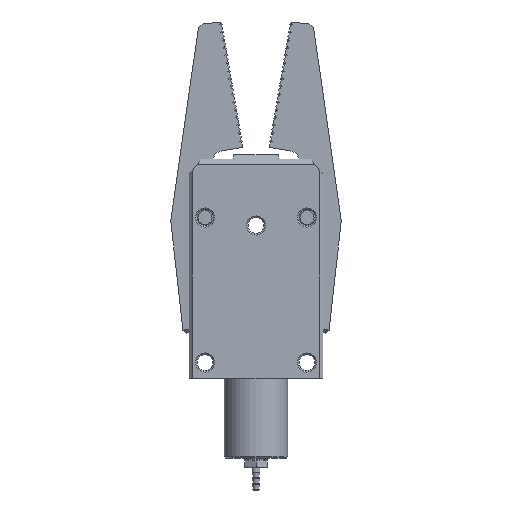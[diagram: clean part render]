
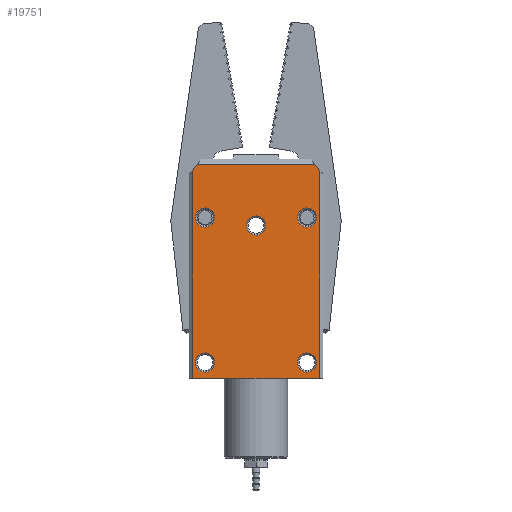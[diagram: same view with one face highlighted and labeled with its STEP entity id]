
A CAD part, front view. The second image highlights one B-rep face of the part: STEP entity #19751.
In plain terms, the highlighted planar face has unit normal (0, -1, 0).
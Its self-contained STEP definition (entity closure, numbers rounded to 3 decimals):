
#13087=LINE('',#45823,#16439);
#13101=LINE('',#45848,#16453);
#13102=LINE('',#45850,#16454);
#13103=LINE('',#45851,#16455);
#13104=LINE('',#45853,#16456);
#13105=LINE('',#45855,#16457);
#13106=LINE('',#45857,#16458);
#16439=VECTOR('',#39024,1.);
#16453=VECTOR('',#39042,1.);
#16454=VECTOR('',#39045,1.);
#16455=VECTOR('',#39046,1.);
#16456=VECTOR('',#39047,1.);
#16457=VECTOR('',#39048,1.);
#16458=VECTOR('',#39049,1.);
#19751=ADVANCED_FACE('',(#22927,#22928,#22929,#22930,#22931,#22932),#21347,
 .F.);
#21347=PLANE('',#37142);
#22927=FACE_BOUND('',#23061,.T.);
#22928=FACE_BOUND('',#23062,.T.);
#22929=FACE_BOUND('',#23063,.T.);
#22930=FACE_BOUND('',#23064,.T.);
#22931=FACE_BOUND('',#23065,.T.);
#22932=FACE_BOUND('',#23066,.T.);
#23061=EDGE_LOOP('',(#24870));
#23062=EDGE_LOOP('',(#24871));
#23063=EDGE_LOOP('',(#24872));
#23064=EDGE_LOOP('',(#24873));
#23065=EDGE_LOOP('',(#24874));
#23066=EDGE_LOOP('',(#24875,#24876,#24877,#24878,#24879,#24880,#24881));
#24870=ORIENTED_EDGE('',*,*,#33548,.T.);
#24871=ORIENTED_EDGE('',*,*,#33546,.T.);
#24872=ORIENTED_EDGE('',*,*,#33544,.T.);
#24873=ORIENTED_EDGE('',*,*,#33542,.T.);
#24874=ORIENTED_EDGE('',*,*,#33540,.T.);
#24875=ORIENTED_EDGE('',*,*,#33643,.F.);
#24876=ORIENTED_EDGE('',*,*,#33644,.T.);
#24877=ORIENTED_EDGE('',*,*,#33629,.T.);
#24878=ORIENTED_EDGE('',*,*,#33645,.T.);
#24879=ORIENTED_EDGE('',*,*,#33646,.T.);
#24880=ORIENTED_EDGE('',*,*,#33647,.T.);
#24881=ORIENTED_EDGE('',*,*,#33648,.F.);
#31645=VERTEX_POINT('',#45632);
#31647=VERTEX_POINT('',#45637);
#31649=VERTEX_POINT('',#45642);
#31651=VERTEX_POINT('',#45647);
#31653=VERTEX_POINT('',#45652);
#31669=VERTEX_POINT('',#45692);
#31720=VERTEX_POINT('',#45824);
#31721=VERTEX_POINT('',#45825);
#31728=VERTEX_POINT('',#45847);
#31729=VERTEX_POINT('',#45852);
#31730=VERTEX_POINT('',#45854);
#31731=VERTEX_POINT('',#45856);
#33540=EDGE_CURVE('',#31645,#31645,#36970,.T.);
#33542=EDGE_CURVE('',#31647,#31647,#36972,.T.);
#33544=EDGE_CURVE('',#31649,#31649,#36974,.T.);
#33546=EDGE_CURVE('',#31651,#31651,#36976,.T.);
#33548=EDGE_CURVE('',#31653,#31653,#36978,.T.);
#33629=EDGE_CURVE('',#31720,#31721,#13087,.T.);
#33643=EDGE_CURVE('',#31728,#31669,#13101,.T.);
#33644=EDGE_CURVE('',#31728,#31720,#13102,.T.);
#33645=EDGE_CURVE('',#31721,#31729,#13103,.T.);
#33646=EDGE_CURVE('',#31729,#31730,#13104,.T.);
#33647=EDGE_CURVE('',#31730,#31731,#13105,.T.);
#33648=EDGE_CURVE('',#31669,#31731,#13106,.T.);
#36970=CIRCLE('',#37072,3.);
#36972=CIRCLE('',#37075,3.);
#36974=CIRCLE('',#37078,3.);
#36976=CIRCLE('',#37081,3.);
#36978=CIRCLE('',#37084,3.);
#37072=AXIS2_PLACEMENT_3D('',#45631,#38840,#38841);
#37075=AXIS2_PLACEMENT_3D('',#45636,#38846,#38847);
#37078=AXIS2_PLACEMENT_3D('',#45641,#38852,#38853);
#37081=AXIS2_PLACEMENT_3D('',#45646,#38858,#38859);
#37084=AXIS2_PLACEMENT_3D('',#45651,#38864,#38865);
#37142=AXIS2_PLACEMENT_3D('',#45858,#39050,#39051);
#38840=DIRECTION('',(0.,1.,0.));
#38841=DIRECTION('',(-1.,0.,0.));
#38846=DIRECTION('',(0.,1.,0.));
#38847=DIRECTION('',(-1.,0.,0.));
#38852=DIRECTION('',(0.,1.,0.));
#38853=DIRECTION('',(-1.,0.,0.));
#38858=DIRECTION('',(0.,1.,0.));
#38859=DIRECTION('',(-1.,0.,0.));
#38864=DIRECTION('',(0.,1.,0.));
#38865=DIRECTION('',(-1.,0.,0.));
#39024=DIRECTION('',(-0.628,0.,0.778));
#39042=DIRECTION('',(-1.,0.,0.));
#39045=DIRECTION('',(0.,0.,1.));
#39046=DIRECTION('',(-1.,0.,0.));
#39047=DIRECTION('',(-0.628,0.,-0.778));
#39048=DIRECTION('',(0.,0.,-1.));
#39049=DIRECTION('',(-1.,0.,0.));
#39050=DIRECTION('',(0.,1.,0.));
#39051=DIRECTION('',(1.,0.,0.));
#45631=CARTESIAN_POINT('',(407.585,-179.749,-18.11));
#45632=CARTESIAN_POINT('',(404.585,-179.749,-18.11));
#45636=CARTESIAN_POINT('',(407.585,-179.749,27.39));
#45637=CARTESIAN_POINT('',(404.585,-179.749,27.39));
#45641=CARTESIAN_POINT('',(423.585,-179.749,24.89));
#45642=CARTESIAN_POINT('',(420.585,-179.749,24.89));
#45646=CARTESIAN_POINT('',(439.585,-179.749,27.39));
#45647=CARTESIAN_POINT('',(436.585,-179.749,27.39));
#45651=CARTESIAN_POINT('',(439.585,-179.749,-18.11));
#45652=CARTESIAN_POINT('',(436.585,-179.749,-18.11));
#45692=CARTESIAN_POINT('',(423.585,-179.749,-23.11));
#45823=CARTESIAN_POINT('',(444.585,-179.749,40.89));
#45824=CARTESIAN_POINT('',(443.585,-179.749,42.13));
#45825=CARTESIAN_POINT('',(442.004,-179.749,44.09));
#45847=CARTESIAN_POINT('',(443.585,-179.749,-23.11));
#45848=CARTESIAN_POINT('',(444.585,-179.749,-23.11));
#45850=CARTESIAN_POINT('',(443.585,-179.749,40.89));
#45851=CARTESIAN_POINT('',(444.585,-179.749,44.09));
#45852=CARTESIAN_POINT('',(405.166,-179.749,44.09));
#45853=CARTESIAN_POINT('',(402.585,-179.749,40.89));
#45854=CARTESIAN_POINT('',(403.585,-179.749,42.13));
#45855=CARTESIAN_POINT('',(403.585,-179.749,-23.11));
#45856=CARTESIAN_POINT('',(403.585,-179.749,-23.11));
#45857=CARTESIAN_POINT('',(444.585,-179.749,-23.11));
#45858=CARTESIAN_POINT('',(444.585,-179.749,-23.11));
